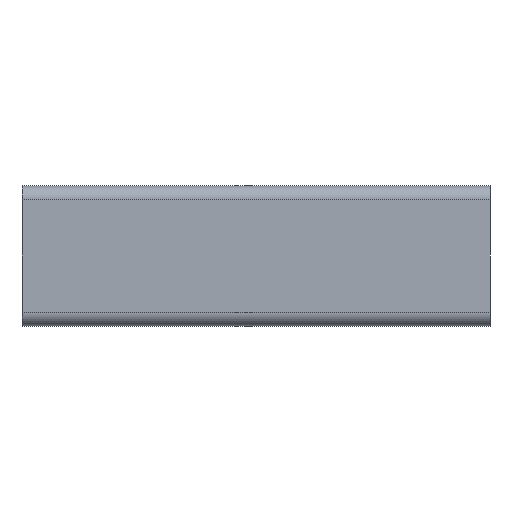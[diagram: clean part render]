
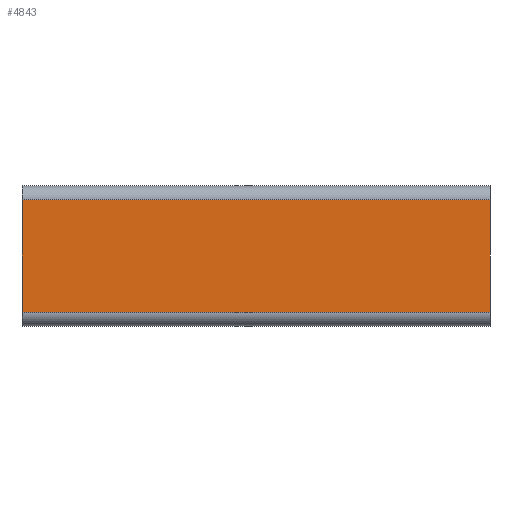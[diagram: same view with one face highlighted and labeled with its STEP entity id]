
A CAD part, left-side view. The second image highlights one B-rep face of the part: STEP entity #4843.
In plain terms, the highlighted planar face has unit normal (-1, 0, 0).
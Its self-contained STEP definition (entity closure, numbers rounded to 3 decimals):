
#105 = VECTOR ( 'NONE', #5242, 1000. ) ;
#240 = LINE ( 'NONE', #5236, #3454 ) ;
#380 = ORIENTED_EDGE ( 'NONE', *, *, #3223, .T. ) ;
#472 = EDGE_CURVE ( 'NONE', #2538, #611, #1603, .T. ) ;
#611 = VERTEX_POINT ( 'NONE', #1699 ) ;
#669 = PLANE ( 'NONE',  #3383 ) ;
#816 = EDGE_CURVE ( 'NONE', #611, #3560, #5174, .T. ) ;
#1000 = CARTESIAN_POINT ( 'NONE',  ( -15., 50., -12. ) ) ;
#1253 = CARTESIAN_POINT ( 'NONE',  ( -15., -50., 12. ) ) ;
#1520 = EDGE_CURVE ( 'NONE', #2538, #2736, #2364, .T. ) ;
#1603 = LINE ( 'NONE', #4076, #4358 ) ;
#1623 = DIRECTION ( 'NONE',  ( 0., 0., 1. ) ) ;
#1699 = CARTESIAN_POINT ( 'NONE',  ( -15., 50., 12. ) ) ;
#1760 = CARTESIAN_POINT ( 'NONE',  ( -15., 50., -12. ) ) ;
#2213 = DIRECTION ( 'NONE',  ( 0., -1., 0. ) ) ;
#2364 = LINE ( 'NONE', #1000, #105 ) ;
#2538 = VERTEX_POINT ( 'NONE', #1760 ) ;
#2586 = ORIENTED_EDGE ( 'NONE', *, *, #1520, .T. ) ;
#2676 = CARTESIAN_POINT ( 'NONE',  ( -15., 50., -12. ) ) ;
#2736 = VERTEX_POINT ( 'NONE', #3094 ) ;
#3045 = VECTOR ( 'NONE', #2213, 1000. ) ;
#3056 = ORIENTED_EDGE ( 'NONE', *, *, #816, .F. ) ;
#3086 = FACE_OUTER_BOUND ( 'NONE', #4246, .T. ) ;
#3094 = CARTESIAN_POINT ( 'NONE',  ( -15., -50., -12. ) ) ;
#3112 = DIRECTION ( 'NONE',  ( 1., 0., 0. ) ) ;
#3223 = EDGE_CURVE ( 'NONE', #2736, #3560, #240, .T. ) ;
#3248 = ORIENTED_EDGE ( 'NONE', *, *, #472, .F. ) ;
#3383 = AXIS2_PLACEMENT_3D ( 'NONE', #2676, #3112, #4346 ) ;
#3454 = VECTOR ( 'NONE', #3972, 1000. ) ;
#3560 = VERTEX_POINT ( 'NONE', #1253 ) ;
#3972 = DIRECTION ( 'NONE',  ( 0., 0., 1. ) ) ;
#4076 = CARTESIAN_POINT ( 'NONE',  ( -15., 50., -12. ) ) ;
#4246 = EDGE_LOOP ( 'NONE', ( #380, #3056, #3248, #2586 ) ) ;
#4346 = DIRECTION ( 'NONE',  ( 0., 0., -1. ) ) ;
#4358 = VECTOR ( 'NONE', #1623, 1000. ) ;
#4376 = CARTESIAN_POINT ( 'NONE',  ( -15., 50., 12. ) ) ;
#4843 = ADVANCED_FACE ( 'NONE', ( #3086 ), #669, .F. ) ;
#5174 = LINE ( 'NONE', #4376, #3045 ) ;
#5236 = CARTESIAN_POINT ( 'NONE',  ( -15., -50., -12. ) ) ;
#5242 = DIRECTION ( 'NONE',  ( 0., -1., 0. ) ) ;
